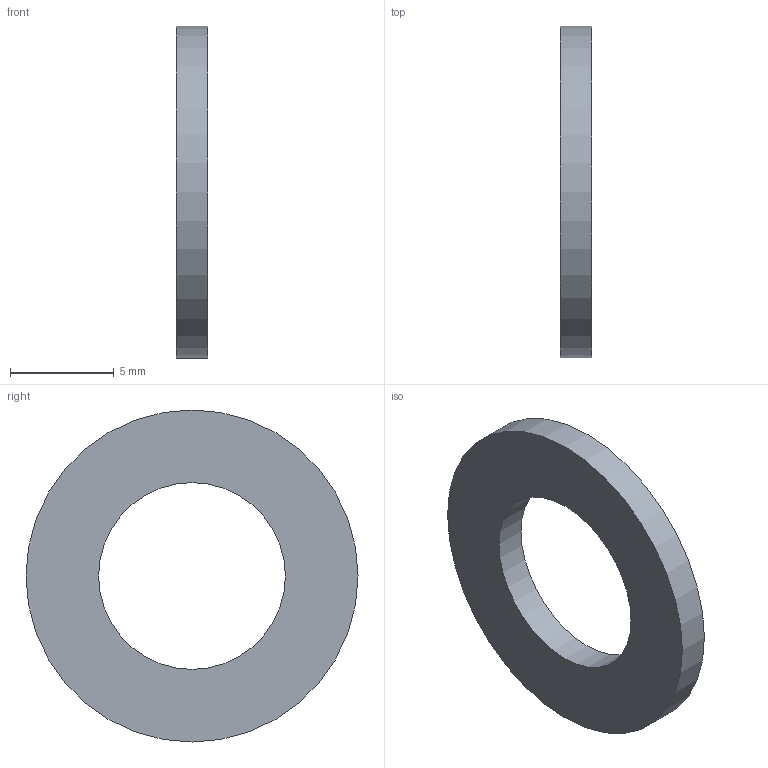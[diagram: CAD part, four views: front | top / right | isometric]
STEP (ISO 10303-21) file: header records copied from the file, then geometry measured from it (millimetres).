
FILE_DESCRIPTION(('Open CASCADE Model'),'2;1');
FILE_NAME('Open CASCADE Shape Model','2026-10-02T07:04:58',('Author'),( 'Open CASCADE'),'Open CASCADE STEP processor 7.9','Open CASCADE 7.9' ,'Unknown');
FILE_SCHEMA(('AUTOMOTIVE_DESIGN { 1 0 10303 214 1 1 1 1 }'));
Length unit declared in the file: millimetre
Products named in the file (1): Open CASCADE STEP translator 7.9 3
Bounding box: 1.5 x 16 x 16 mm (x, y, z)
Volume: 206.2 mm3; surface area: 392.7 mm2
Topology: 1 solids, 1 shells, 4 faces, 6 edges, 4 vertices
Faces by surface type: cylinder 2, plane 2
Full cylindrical faces by diameter (mm): 9 x1, 16 x1
Entity records: 186 total; most frequent: DIRECTION 32, CARTESIAN_POINT 27, ORIENTED_EDGE 12, PCURVE 12, DEFINITIONAL_REPRESENTATION 12, LINE 10, VECTOR 10, AXIS2_PLACEMENT_3D 9
